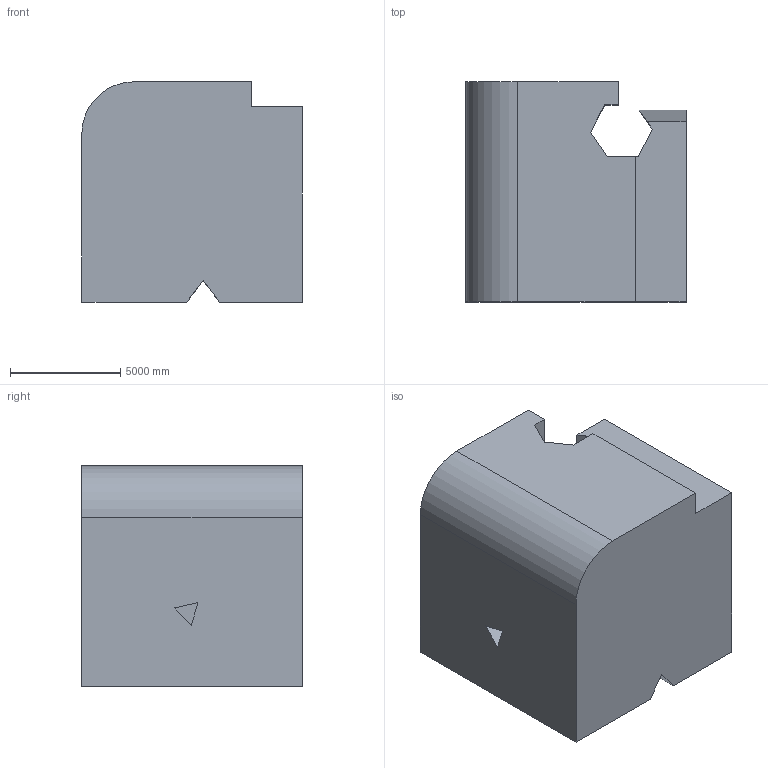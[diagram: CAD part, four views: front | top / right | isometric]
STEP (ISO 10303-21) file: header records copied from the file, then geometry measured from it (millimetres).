
FILE_DESCRIPTION (( 'STEP AP203' ), '1' );
FILE_NAME ('1639.STEP', '2022-08-19T11:15:51', ( 'user' ), ( '' ), 'SwSTEP 2.0', 'SolidWorks 2021', '' );
FILE_SCHEMA (( 'CONFIG_CONTROL_DESIGN' ));
Length unit declared in the file: centimetre
Products named in the file (1): 1639
Bounding box: 10000 x 10000 x 10000 mm (x, y, z)
Volume: 841716337861.8 mm3; surface area: 696149350.7 mm2
Topology: 1 solids, 1 shells, 34 faces, 90 edges, 60 vertices
Faces by surface type: plane 29, cylinder 5
Entity records: 1121 total; most frequent: CARTESIAN_POINT 209, ORIENTED_EDGE 180, DIRECTION 162, EDGE_CURVE 90, VECTOR 72, LINE 72, VERTEX_POINT 60, AXIS2_PLACEMENT_3D 45
